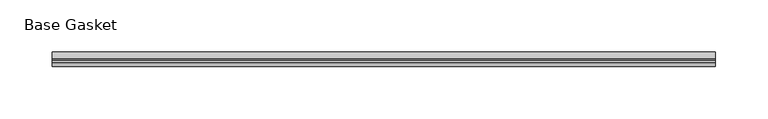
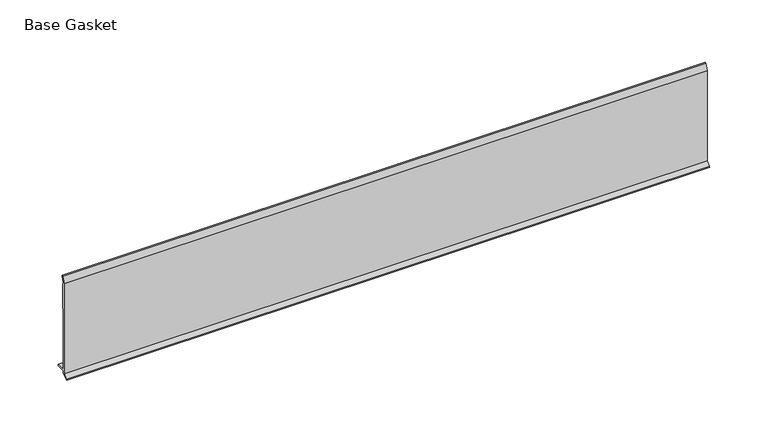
"""IFC4 building model written with IfcOpenShell, lengths in millimetres: furniture geometry, Gasket-Teknion-FHGB-AI_Healthcare-R2021 : Base Gasket."""

from ifc_helpers import new_model, si_unit, frame, origin, place, context, project, spatial, polyline, outline, extrude, source, transform, mapped, element, save


def base_gasket_7734e66f(model_context):
    return source(origin(), model_context, "Body", "SweptSolid", [
        extrude(outline(polyline([(-3.7283812, 98.4568417), (-1.1891543, 104.587663), (-0.6755308, 105.2002997), (-0.6755308, 104.4162708), (-2.2043812, 98.4568417), (-2.2043812, 96.8693477), (-1.4106313, 96.8693477), (-1.4106313, 71.4693447), (-2.2043812, 71.4693447), (-2.2043812, 7.9398773), (6.2405171, 7.9398773), (6.2405171, 6.3818476), (-2.1334222, 6.3818476), (-2.2043812, 4.3498477), (-6.8281054, 0.3520979), (-7.8482342, 0.0), (-7.4222115, 0.6560174), (-3.7283812, 4.3498477), (-3.7283812, 98.4568417)])), frame((-1527.8982117, 0.0, 0.0), z_axis=(1.0, 0.0, 0.0), x_axis=(0.0, 1.0, 0.0)), (0.0, 0.0, 1.0), 635.0),
    ])


if __name__ == "__main__":
    model = new_model("IFC4")
    model_context = context("Model", 3, world=origin())
    ifc_project = project(units=[si_unit("LENGTHUNIT", "METRE", prefix="MILLI")], contexts=[model_context])
    site = spatial("IfcSite", under=ifc_project)
    building = spatial("IfcBuilding", under=site)
    placement = place(None, origin())
    base_gasket_shape = base_gasket_7734e66f(model_context)
    element("IfcFurniture", 1, ObjectType="Gasket-Teknion-FHGB-AI_Healthcare-R2021 : Base Gasket", at=placement, inside=building, context=model_context, shape_type="MappedRepresentation", body=[
        mapped(base_gasket_shape, transform((0.0, 0.0, 0.0), x_axis=(1.0, 0.0, 0.0), y_axis=(0.0, 1.0, 0.0), z_axis=(0.0, 0.0, 1.0))),
    ])
    save(model, "model.ifc")
